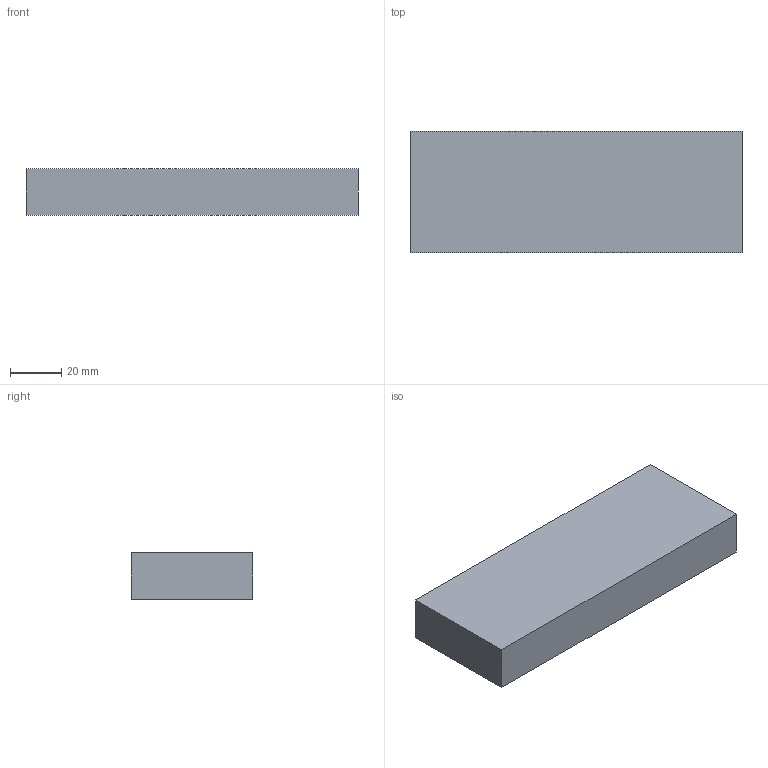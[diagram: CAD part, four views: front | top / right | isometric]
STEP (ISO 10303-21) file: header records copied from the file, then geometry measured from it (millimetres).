
FILE_DESCRIPTION(('HOOPS Exchange Step'),'2;1');
FILE_NAME('C:\Users\emstan\Desktop\TEST.STP.STP','2025-01-19T11:55:53+08:00',('emstan'),('None'),'HOOPS Exchange 2023.1','SOLIDWORKS MBD','None');
FILE_SCHEMA( ('AP242_MANAGED_MODEL_BASED_3D_ENGINEERING_MIM_LF {1 0 10303 442 1 1 4 }') );
Length unit declared in the file: millimetre
Products named in the file (1): 默认
Bounding box: 129.11 x 47.41 x 18 mm (x, y, z)
Volume: 110175.7 mm3; surface area: 18596.3 mm2
Topology: 1 solids, 1 shells, 6 faces, 12 edges, 8 vertices
Faces by surface type: plane 6
Entity records: 424 total; most frequent: COORDINATES_LIST 80, CARTESIAN_POINT 68, COMPLEX_TRIANGULATED_SURFACE_SET 42, TESSELLATED_CURVE_SET 38, ORIENTED_EDGE 24, DIRECTION 22, B_SPLINE_CURVE_WITH_KNOTS 12, EDGE_CURVE 12
